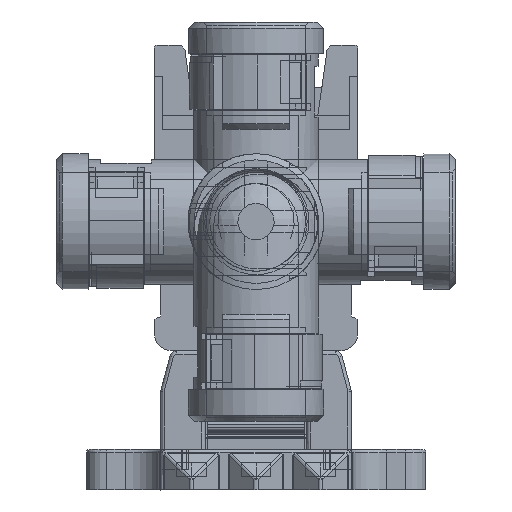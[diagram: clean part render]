
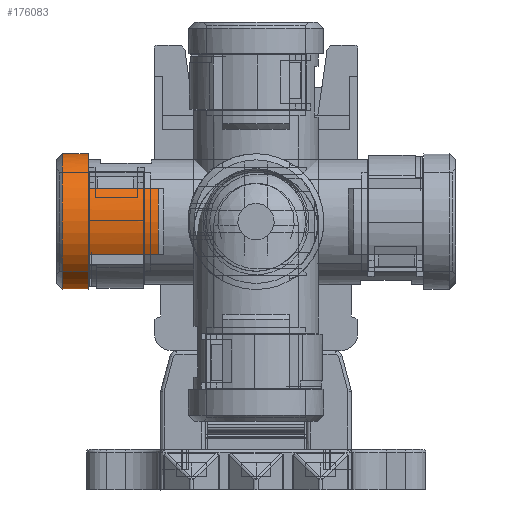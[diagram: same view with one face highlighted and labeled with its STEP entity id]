
A CAD part, left-side view. The second image highlights one B-rep face of the part: STEP entity #176083.
In plain terms, the highlighted cylindrical face has radius 10 mm (diameter 20 mm), a full revolution.
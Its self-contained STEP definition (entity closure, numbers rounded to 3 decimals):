
#2507=CYLINDRICAL_SURFACE('',#172361,10.);
#6517=VECTOR('',#129164,1.);
#6529=VECTOR('',#129218,1.);
#6530=VECTOR('',#129219,1.);
#6531=VECTOR('',#129222,1.);
#11025=LINE('',#161703,#6517);
#11037=LINE('',#161752,#6529);
#11038=LINE('',#161754,#6530);
#11039=LINE('',#161757,#6531);
#90498=ORIENTED_EDGE('',*,*,#106535,.F.);
#90499=ORIENTED_EDGE('',*,*,#106536,.F.);
#90500=ORIENTED_EDGE('',*,*,#106504,.F.);
#90501=ORIENTED_EDGE('',*,*,#106537,.F.);
#90502=ORIENTED_EDGE('',*,*,#106538,.F.);
#90503=ORIENTED_EDGE('',*,*,#106513,.F.);
#90504=ORIENTED_EDGE('',*,*,#106508,.F.);
#90505=ORIENTED_EDGE('',*,*,#106539,.F.);
#90506=ORIENTED_EDGE('',*,*,#106540,.F.);
#94393=CIRCLE('',#172337,10.);
#94394=CIRCLE('',#172338,10.);
#94405=CIRCLE('',#172360,10.);
#94406=CIRCLE('',#172362,10.);
#94407=CIRCLE('',#172363,10.);
#98957=VERTEX_POINT('',#161679);
#98960=VERTEX_POINT('',#161684);
#98961=VERTEX_POINT('',#161686);
#98964=VERTEX_POINT('',#161692);
#98967=VERTEX_POINT('',#161702);
#98982=VERTEX_POINT('',#161748);
#98983=VERTEX_POINT('',#161751);
#98984=VERTEX_POINT('',#161753);
#98985=VERTEX_POINT('',#161756);
#106504=EDGE_CURVE('',#98960,#98961,#94393,.T.);
#106508=EDGE_CURVE('',#98964,#98957,#94394,.T.);
#106513=EDGE_CURVE('',#98957,#98967,#11025,.T.);
#106535=EDGE_CURVE('',#98982,#98982,#94405,.T.);
#106536=EDGE_CURVE('',#98961,#98983,#11037,.T.);
#106537=EDGE_CURVE('',#98984,#98960,#11038,.T.);
#106538=EDGE_CURVE('',#98967,#98984,#94406,.T.);
#106539=EDGE_CURVE('',#98985,#98964,#11039,.T.);
#106540=EDGE_CURVE('',#98983,#98985,#94407,.T.);
#110508=EDGE_LOOP('',(#90498));
#110509=EDGE_LOOP('',(#90499,#90500,#90501,#90502,#90503,#90504,#90505,
#90506));
#114083=FACE_BOUND('',#110508,.T.);
#114084=FACE_BOUND('',#110509,.T.);
#129150=DIRECTION('',(0.,0.,-1.));
#129151=DIRECTION('',(8.717,-4.9,0.));
#129155=DIRECTION('',(0.,0.,-1.));
#129156=DIRECTION('',(-8.717,4.9,0.));
#129164=DIRECTION('',(0.,0.,-10.3));
#129214=DIRECTION('',(0.,0.,1.));
#129215=DIRECTION('',(-10.,0.,0.));
#129216=DIRECTION('',(0.,0.,1.));
#129217=DIRECTION('',(1.,0.,0.));
#129218=DIRECTION('',(0.,0.,-10.3));
#129219=DIRECTION('',(0.,0.,10.3));
#129220=DIRECTION('',(0.,0.,-1.));
#129221=DIRECTION('',(8.717,4.9,0.));
#129222=DIRECTION('',(0.,0.,10.3));
#129223=DIRECTION('',(0.,0.,-1.));
#129224=DIRECTION('',(-8.717,-4.9,0.));
#161679=CARTESIAN_POINT('',(13.417,4.9,20.6));
#161684=CARTESIAN_POINT('',(13.417,-4.9,20.6));
#161686=CARTESIAN_POINT('',(-4.017,-4.9,20.6));
#161687=CARTESIAN_POINT('',(4.7,0.,20.6));
#161692=CARTESIAN_POINT('',(-4.017,4.9,20.6));
#161694=CARTESIAN_POINT('',(4.7,0.,20.6));
#161702=CARTESIAN_POINT('',(13.417,4.9,10.3));
#161703=CARTESIAN_POINT('',(13.417,4.9,20.6));
#161748=CARTESIAN_POINT('',(-5.3,0.,24.4));
#161749=CARTESIAN_POINT('',(4.7,0.,24.4));
#161750=CARTESIAN_POINT('',(4.7,0.,-0.3));
#161751=CARTESIAN_POINT('',(-4.017,-4.9,10.3));
#161752=CARTESIAN_POINT('',(-4.017,-4.9,20.6));
#161753=CARTESIAN_POINT('',(13.417,-4.9,10.3));
#161754=CARTESIAN_POINT('',(13.417,-4.9,10.3));
#161755=CARTESIAN_POINT('',(4.7,0.,10.3));
#161756=CARTESIAN_POINT('',(-4.017,4.9,10.3));
#161757=CARTESIAN_POINT('',(-4.017,4.9,10.3));
#161758=CARTESIAN_POINT('',(4.7,0.,10.3));
#172337=AXIS2_PLACEMENT_3D('',#161687,#129150,#129151);
#172338=AXIS2_PLACEMENT_3D('',#161694,#129155,#129156);
#172360=AXIS2_PLACEMENT_3D('',#161749,#129214,#129215);
#172361=AXIS2_PLACEMENT_3D('',#161750,#129216,#129217);
#172362=AXIS2_PLACEMENT_3D('',#161755,#129220,#129221);
#172363=AXIS2_PLACEMENT_3D('',#161758,#129223,#129224);
#176083=ADVANCED_FACE('',(#114083,#114084),#2507,.T.);
